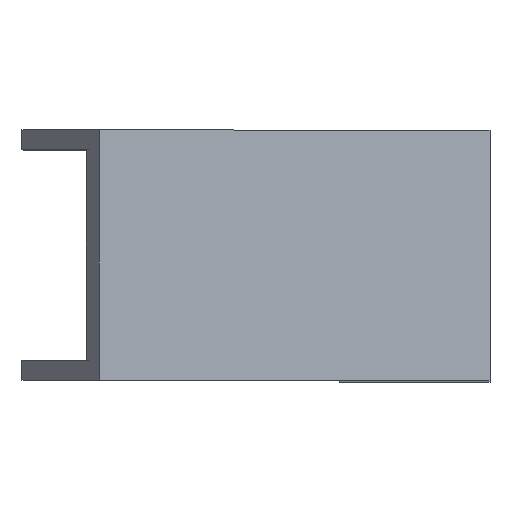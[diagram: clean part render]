
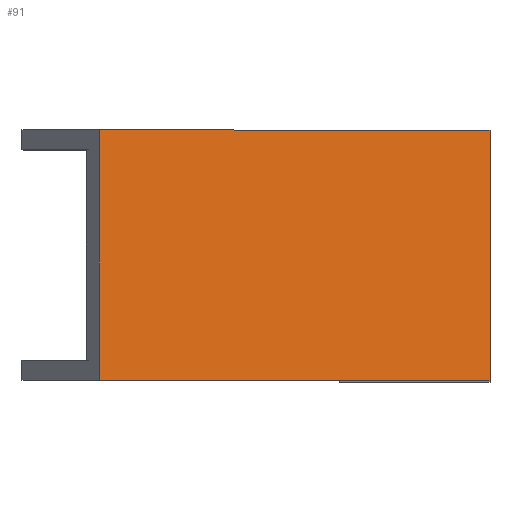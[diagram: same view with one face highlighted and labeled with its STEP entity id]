
A CAD part, top view. The second image highlights one B-rep face of the part: STEP entity #91.
In plain terms, the highlighted planar face has unit normal (0.643, 0, 0.766).
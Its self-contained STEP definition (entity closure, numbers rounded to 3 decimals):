
#52=CARTESIAN_POINT('Axis2P3D Location',(2.714,-12.5,67.333)) ;
#57=CARTESIAN_POINT('Line Origine',(-17.508,12.5,84.302)) ;
#61=CARTESIAN_POINT('Vertex',(2.,12.5,67.933)) ;
#63=CARTESIAN_POINT('Vertex',(-37.017,12.5,100.671)) ;
#66=CARTESIAN_POINT('Line Origine',(-37.017,0.,100.671)) ;
#70=CARTESIAN_POINT('Vertex',(-37.017,-12.5,100.671)) ;
#73=CARTESIAN_POINT('Line Origine',(-17.508,-12.5,84.302)) ;
#77=CARTESIAN_POINT('Vertex',(2.,-12.5,67.933)) ;
#80=CARTESIAN_POINT('Line Origine',(2.,0.,67.933)) ;
#53=DIRECTION('Axis2P3D Direction',(0.643,-0.,0.766)) ;
#54=DIRECTION('Axis2P3D XDirection',(0.,1.,0.)) ;
#58=DIRECTION('Vector Direction',(-0.766,0.,0.643)) ;
#67=DIRECTION('Vector Direction',(0.,1.,0.)) ;
#74=DIRECTION('Vector Direction',(-0.766,0.,0.643)) ;
#81=DIRECTION('Vector Direction',(0.,1.,0.)) ;
#55=AXIS2_PLACEMENT_3D('Plane Axis2P3D',#52,#53,#54) ;
#86=ORIENTED_EDGE('',*,*,#65,.T.) ;
#87=ORIENTED_EDGE('',*,*,#72,.F.) ;
#88=ORIENTED_EDGE('',*,*,#79,.F.) ;
#89=ORIENTED_EDGE('',*,*,#84,.T.) ;
#59=VECTOR('Line Direction',#58,1.) ;
#68=VECTOR('Line Direction',#67,1.) ;
#75=VECTOR('Line Direction',#74,1.) ;
#82=VECTOR('Line Direction',#81,1.) ;
#91=ADVANCED_FACE('MAIN',(#90),#56,.T.) ;
#65=EDGE_CURVE('',#62,#64,#60,.T.) ;
#72=EDGE_CURVE('',#71,#64,#69,.T.) ;
#79=EDGE_CURVE('',#78,#71,#76,.T.) ;
#84=EDGE_CURVE('',#78,#62,#83,.T.) ;
#85=EDGE_LOOP('',(#86,#87,#88,#89)) ;
#90=FACE_OUTER_BOUND('',#85,.T.) ;
#60=LINE('Line',#57,#59) ;
#69=LINE('Line',#66,#68) ;
#76=LINE('Line',#73,#75) ;
#83=LINE('Line',#80,#82) ;
#56=PLANE('',#55) ;
#62=VERTEX_POINT('',#61) ;
#64=VERTEX_POINT('',#63) ;
#71=VERTEX_POINT('',#70) ;
#78=VERTEX_POINT('',#77) ;
